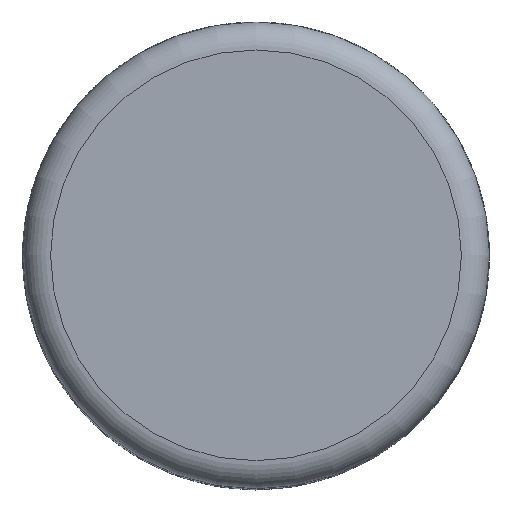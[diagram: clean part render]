
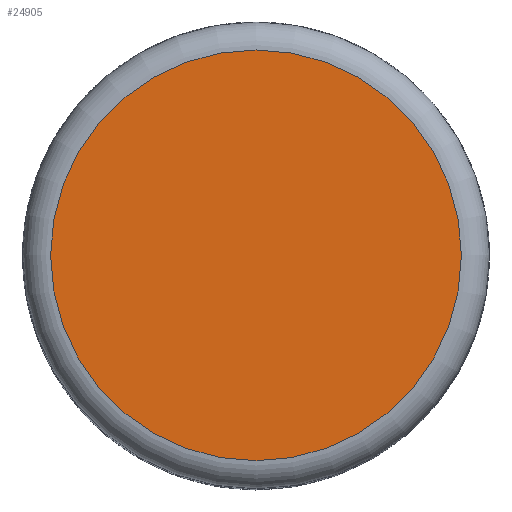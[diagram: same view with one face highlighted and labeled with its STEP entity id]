
A CAD part, top view. The second image highlights one B-rep face of the part: STEP entity #24905.
In plain terms, the highlighted planar face has unit normal (0, 0, 1).
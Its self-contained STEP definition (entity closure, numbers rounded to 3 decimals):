
#218 = TOROIDAL_SURFACE('',#219,8.8,1.2);
#219 = AXIS2_PLACEMENT_3D('',#220,#221,#222);
#220 = CARTESIAN_POINT('',(0.,0.,30.8));
#221 = DIRECTION('',(0.,0.,1.));
#222 = DIRECTION('',(1.,0.,-0.));
#12126 = VERTEX_POINT('',#12127);
#12127 = CARTESIAN_POINT('',(8.8,0.,32.));
#12149 = EDGE_CURVE('',#12126,#12126,#12150,.T.);
#12150 = SURFACE_CURVE('',#12151,(#12156,#12163),.PCURVE_S1.);
#12151 = CIRCLE('',#12152,8.8);
#12152 = AXIS2_PLACEMENT_3D('',#12153,#12154,#12155);
#12153 = CARTESIAN_POINT('',(0.,0.,32.));
#12154 = DIRECTION('',(0.,0.,1.));
#12155 = DIRECTION('',(1.,0.,-0.));
#12156 = PCURVE('',#218,#12157);
#12157 = DEFINITIONAL_REPRESENTATION('',(#12158),#12162);
#12158 = LINE('',#12159,#12160);
#12159 = CARTESIAN_POINT('',(0.,1.571));
#12160 = VECTOR('',#12161,1.);
#12161 = DIRECTION('',(1.,0.));
#12162 = ( GEOMETRIC_REPRESENTATION_CONTEXT(2) 
PARAMETRIC_REPRESENTATION_CONTEXT() REPRESENTATION_CONTEXT('2D SPACE',''
  ) );
#12163 = PCURVE('',#12164,#12169);
#12164 = PLANE('',#12165);
#12165 = AXIS2_PLACEMENT_3D('',#12166,#12167,#12168);
#12166 = CARTESIAN_POINT('',(0.,0.,32.));
#12167 = DIRECTION('',(0.,0.,1.));
#12168 = DIRECTION('',(1.,0.,-0.));
#12169 = DEFINITIONAL_REPRESENTATION('',(#12170),#12174);
#12170 = CIRCLE('',#12171,8.8);
#12171 = AXIS2_PLACEMENT_2D('',#12172,#12173);
#12172 = CARTESIAN_POINT('',(0.,0.));
#12173 = DIRECTION('',(1.,0.));
#12174 = ( GEOMETRIC_REPRESENTATION_CONTEXT(2) 
PARAMETRIC_REPRESENTATION_CONTEXT() REPRESENTATION_CONTEXT('2D SPACE',''
  ) );
#24905 = ADVANCED_FACE('',(#24906),#12164,.T.);
#24906 = FACE_BOUND('',#24907,.T.);
#24907 = EDGE_LOOP('',(#24908));
#24908 = ORIENTED_EDGE('',*,*,#12149,.T.);
